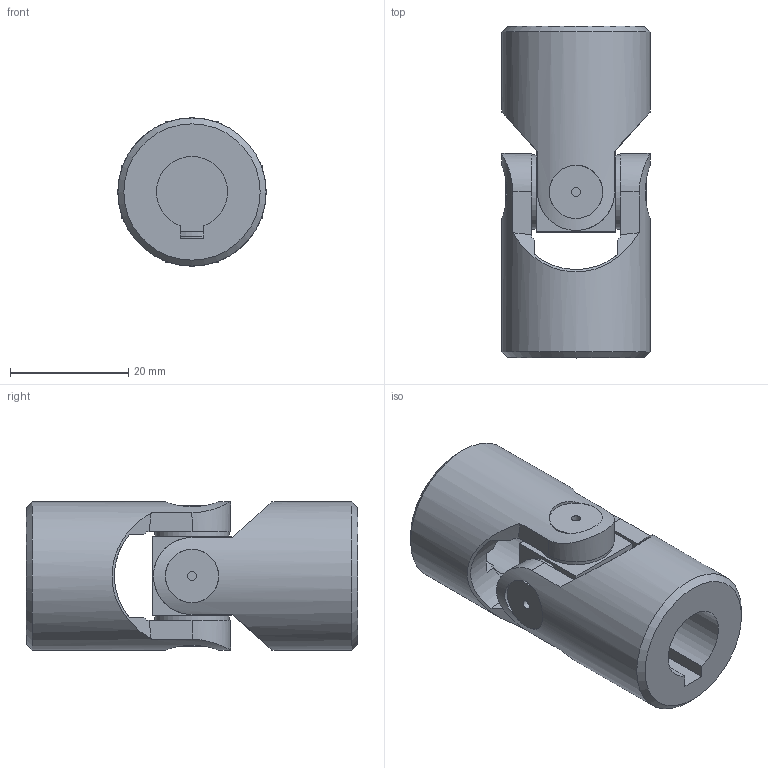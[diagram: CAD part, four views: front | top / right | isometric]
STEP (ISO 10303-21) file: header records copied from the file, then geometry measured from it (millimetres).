
FILE_DESCRIPTION(/* description */ ('EXTENSIBLE TRANSIMISSIONS Series G DIN 808 -2-'),/* implementation_level */ '2;1');
FILE_NAME(/* name */ '\\SRV2016\societa\Stefano\Disegni 3D\Dis. Clienti\0000Catalogo 3D\01Singoli G-GB\SG0S122C.stp',/* time_stamp */ '2021-11-08T14:41:55+01:00',/* author */ ('acquisti'),/* organization */ ('MARIOFERRI'),/* preprocessor_version */ 'ST-DEVELOPER v15.6',/* originating_system */ 'Autodesk Inventor 2015',/* authorisation */ '');
FILE_SCHEMA (('AUTOMOTIVE_DESIGN { 1 0 10303 214 3 1 1 }'));
Length unit declared in the file: millimetre
Products named in the file (3): 04G SFE; 04G MOC; Assieme1
Assembly tree (3 placements, depth 2):
  Assieme1
    04G SFE
    04G MOC  x2
Bounding box: 25 x 56 x 25 mm (x, y, z)
Volume: 18512.1 mm3; surface area: 8683.7 mm2
Topology: 3 solids, 3 shells, 90 faces, 216 edges, 142 vertices
Faces by surface type: plane 42, cylinder 34, cone 12, torus 2
Full cylindrical faces by diameter (mm): 1.5 x4, 12.5 x4, 25 x2
Entity records: 1697 total; most frequent: CARTESIAN_POINT 522, DIRECTION 227, ORIENTED_EDGE 222, EDGE_CURVE 111, AXIS2_PLACEMENT_3D 97, VERTEX_POINT 79, EDGE_LOOP 70, FACE_OUTER_BOUND 52
